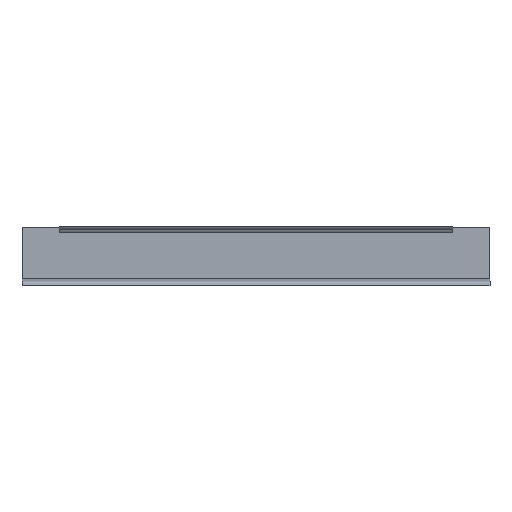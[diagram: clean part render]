
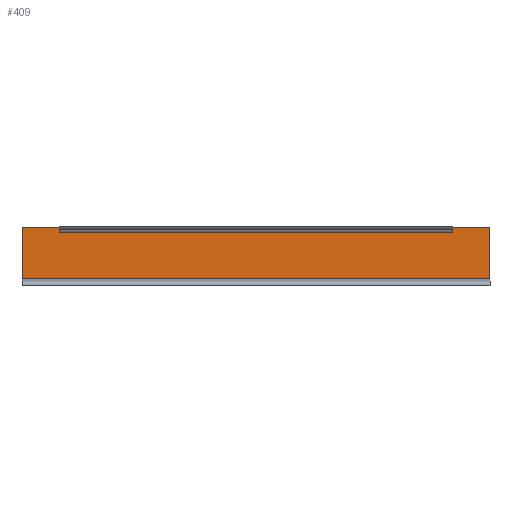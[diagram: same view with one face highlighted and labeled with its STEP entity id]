
A CAD part, left-side view. The second image highlights one B-rep face of the part: STEP entity #409.
In plain terms, the highlighted planar face has unit normal (-1, 0, 0).
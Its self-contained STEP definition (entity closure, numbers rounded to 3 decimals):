
#13 = ORIENTED_EDGE ( 'NONE', *, *, #295, .F. ) ;
#18 = ORIENTED_EDGE ( 'NONE', *, *, #286, .T. ) ;
#24 = ORIENTED_EDGE ( 'NONE', *, *, #290, .T. ) ;
#47 = ORIENTED_EDGE ( 'NONE', *, *, #294, .F. ) ;
#60 = ORIENTED_EDGE ( 'NONE', *, *, #293, .F. ) ;
#62 = EDGE_LOOP ( 'NONE', ( #13, #263, #60, #71, #47, #18, #67, #24 ) ) ;
#67 = ORIENTED_EDGE ( 'NONE', *, *, #292, .T. ) ;
#71 = ORIENTED_EDGE ( 'NONE', *, *, #298, .F. ) ;
#84 = CARTESIAN_POINT ( 'NONE',  ( 6.024, 395.5, -2.932 ) ) ;
#107 = CARTESIAN_POINT ( 'NONE',  ( 6.024, 0., -51.31 ) ) ;
#109 = CARTESIAN_POINT ( 'NONE',  ( 6.024, 34., -8.71 ) ) ;
#114 = CARTESIAN_POINT ( 'NONE',  ( 6.024, 395.5, -8.71 ) ) ;
#118 = CARTESIAN_POINT ( 'NONE',  ( 6.024, 395.5, -4.106 ) ) ;
#119 = CARTESIAN_POINT ( 'NONE',  ( 6.024, 429.5, -4.106 ) ) ;
#121 = CARTESIAN_POINT ( 'NONE',  ( 6.024, 0., -4.106 ) ) ;
#127 = CARTESIAN_POINT ( 'NONE',  ( 6.024, 34., -4.106 ) ) ;
#141 = VERTEX_POINT ( 'NONE', #172 ) ;
#146 = VERTEX_POINT ( 'NONE', #127 ) ;
#152 = VERTEX_POINT ( 'NONE', #121 ) ;
#154 = VERTEX_POINT ( 'NONE', #119 ) ;
#155 = VERTEX_POINT ( 'NONE', #118 ) ;
#159 = VERTEX_POINT ( 'NONE', #114 ) ;
#164 = VERTEX_POINT ( 'NONE', #109 ) ;
#166 = VERTEX_POINT ( 'NONE', #107 ) ;
#172 = CARTESIAN_POINT ( 'NONE',  ( 6.024, 429.5, -51.31 ) ) ;
#179 = DIRECTION ( 'NONE',  ( 0., 1., 0. ) ) ;
#180 = CARTESIAN_POINT ( 'NONE',  ( 6.024, 429.5, -4.106 ) ) ;
#185 = CARTESIAN_POINT ( 'NONE',  ( 6.024, 429.5, -4.106 ) ) ;
#186 = DIRECTION ( 'NONE',  ( 0., 1., 0. ) ) ;
#187 = CARTESIAN_POINT ( 'NONE',  ( 6.024, 429.5, -51.31 ) ) ;
#188 = DIRECTION ( 'NONE',  ( 0., -1., 0. ) ) ;
#191 = CARTESIAN_POINT ( 'NONE',  ( 6.024, 429.5, -8.71 ) ) ;
#192 = DIRECTION ( 'NONE',  ( 0., 0., -1. ) ) ;
#193 = CARTESIAN_POINT ( 'NONE',  ( 6.024, 34., -2.932 ) ) ;
#194 = DIRECTION ( 'NONE',  ( 0., 0., 1. ) ) ;
#195 = CARTESIAN_POINT ( 'NONE',  ( 6.024, 0., -9.925 ) ) ;
#196 = DIRECTION ( 'NONE',  ( 0., 0., -1. ) ) ;
#197 = CARTESIAN_POINT ( 'NONE',  ( 6.024, 429.5, -8.71 ) ) ;
#198 = DIRECTION ( 'NONE',  ( 0., 0., -1. ) ) ;
#204 = DIRECTION ( 'NONE',  ( 0., -1., 0. ) ) ;
#263 = ORIENTED_EDGE ( 'NONE', *, *, #289, .T. ) ;
#286 = EDGE_CURVE ( 'NONE', #155, #154, #478, .T. ) ;
#289 = EDGE_CURVE ( 'NONE', #152, #146, #480, .T. ) ;
#290 = EDGE_CURVE ( 'NONE', #141, #166, #485, .T. ) ;
#292 = EDGE_CURVE ( 'NONE', #154, #141, #489, .T. ) ;
#293 = EDGE_CURVE ( 'NONE', #164, #146, #491, .T. ) ;
#294 = EDGE_CURVE ( 'NONE', #155, #159, #483, .T. ) ;
#295 = EDGE_CURVE ( 'NONE', #152, #166, #473, .T. ) ;
#298 = EDGE_CURVE ( 'NONE', #159, #164, #476, .T. ) ;
#344 = AXIS2_PLACEMENT_3D ( 'NONE', #583, #360, #359 ) ;
#359 = DIRECTION ( 'NONE',  ( 0., 0., -1. ) ) ;
#360 = DIRECTION ( 'NONE',  ( -1., 0., 0. ) ) ;
#409 = ADVANCED_FACE ( 'NONE', ( #558 ), #584, .T. ) ;
#473 = LINE ( 'NONE', #195, #495 ) ;
#476 = LINE ( 'NONE', #197, #500 ) ;
#478 = LINE ( 'NONE', #180, #479 ) ;
#479 = VECTOR ( 'NONE', #179, 1000. ) ;
#480 = LINE ( 'NONE', #185, #481 ) ;
#481 = VECTOR ( 'NONE', #186, 1000. ) ;
#483 = LINE ( 'NONE', #84, #493 ) ;
#485 = LINE ( 'NONE', #187, #486 ) ;
#486 = VECTOR ( 'NONE', #188, 1000. ) ;
#489 = LINE ( 'NONE', #191, #490 ) ;
#490 = VECTOR ( 'NONE', #192, 1000. ) ;
#491 = LINE ( 'NONE', #193, #492 ) ;
#492 = VECTOR ( 'NONE', #194, 1000. ) ;
#493 = VECTOR ( 'NONE', #196, 1000. ) ;
#495 = VECTOR ( 'NONE', #198, 1000. ) ;
#500 = VECTOR ( 'NONE', #204, 1000. ) ;
#558 = FACE_OUTER_BOUND ( 'NONE', #62, .T. ) ;
#583 = CARTESIAN_POINT ( 'NONE',  ( 6.024, 429.5, -9.925 ) ) ;
#584 = PLANE ( 'NONE',  #344 ) ;
